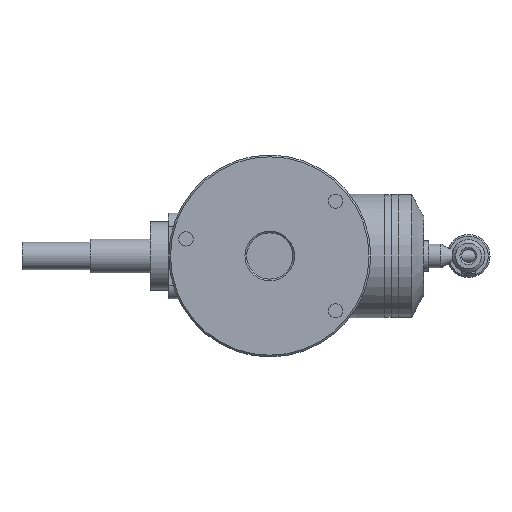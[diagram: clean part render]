
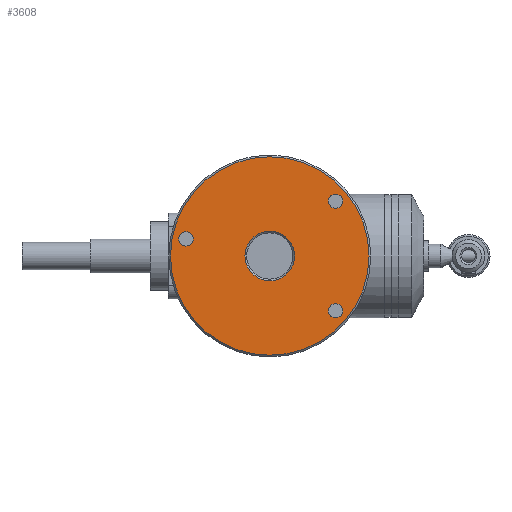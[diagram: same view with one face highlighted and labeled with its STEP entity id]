
A CAD part, front view. The second image highlights one B-rep face of the part: STEP entity #3608.
In plain terms, the highlighted planar face has unit normal (0, -1, 0).
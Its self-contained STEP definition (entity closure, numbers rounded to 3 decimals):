
#81=FACE_BOUND('',#1033,.T.);
#82=FACE_BOUND('',#1034,.T.);
#83=FACE_BOUND('',#1035,.T.);
#84=FACE_BOUND('',#1036,.T.);
#804=FACE_OUTER_BOUND('',#1032,.T.);
#1032=EDGE_LOOP('',(#2348));
#1033=EDGE_LOOP('',(#2349));
#1034=EDGE_LOOP('',(#2350));
#1035=EDGE_LOOP('',(#2351));
#1036=EDGE_LOOP('',(#2352));
#1269=CIRCLE('',#3836,2.1);
#1271=CIRCLE('',#3840,2.1);
#1273=CIRCLE('',#3844,2.1);
#1285=CIRCLE('',#3872,7.25);
#1288=CIRCLE('',#3876,29.);
#1430=VERTEX_POINT('',#5308);
#1432=VERTEX_POINT('',#5315);
#1434=VERTEX_POINT('',#5322);
#1468=VERTEX_POINT('',#5551);
#1471=VERTEX_POINT('',#5559);
#1757=EDGE_CURVE('',#1430,#1430,#1269,.T.);
#1760=EDGE_CURVE('',#1432,#1432,#1271,.T.);
#1763=EDGE_CURVE('',#1434,#1434,#1273,.T.);
#1809=EDGE_CURVE('',#1468,#1468,#1285,.T.);
#1813=EDGE_CURVE('',#1471,#1471,#1288,.T.);
#2348=ORIENTED_EDGE('',*,*,#1813,.F.);
#2349=ORIENTED_EDGE('',*,*,#1757,.T.);
#2350=ORIENTED_EDGE('',*,*,#1760,.T.);
#2351=ORIENTED_EDGE('',*,*,#1763,.T.);
#2352=ORIENTED_EDGE('',*,*,#1809,.F.);
#3269=PLANE('',#3875);
#3608=ADVANCED_FACE('',(#804,#81,#82,#83,#84),#3269,.T.);
#3836=AXIS2_PLACEMENT_3D('',#5309,#4233,#4234);
#3840=AXIS2_PLACEMENT_3D('',#5316,#4242,#4243);
#3844=AXIS2_PLACEMENT_3D('',#5323,#4251,#4252);
#3872=AXIS2_PLACEMENT_3D('',#5552,#4336,#4337);
#3875=AXIS2_PLACEMENT_3D('',#5558,#4343,#4344);
#3876=AXIS2_PLACEMENT_3D('',#5560,#4345,#4346);
#4233=DIRECTION('center_axis',(0.,1.,0.));
#4234=DIRECTION('ref_axis',(1.,0.,0.));
#4242=DIRECTION('center_axis',(0.,1.,0.));
#4243=DIRECTION('ref_axis',(1.,0.,0.));
#4251=DIRECTION('center_axis',(0.,1.,0.));
#4252=DIRECTION('ref_axis',(1.,0.,0.));
#4336=DIRECTION('center_axis',(0.,-1.,0.));
#4337=DIRECTION('ref_axis',(-1.,0.,0.));
#4343=DIRECTION('center_axis',(0.,-1.,0.));
#4344=DIRECTION('ref_axis',(0.,0.,-1.));
#4345=DIRECTION('center_axis',(0.,1.,0.));
#4346=DIRECTION('ref_axis',(-1.,0.,0.));
#5308=CARTESIAN_POINT('',(17.109,0.,-16.));
#5309=CARTESIAN_POINT('Origin',(19.209,0.,-16.));
#5315=CARTESIAN_POINT('',(-26.595,0.,5.));
#5316=CARTESIAN_POINT('Origin',(-24.495,0.,5.));
#5322=CARTESIAN_POINT('',(17.109,0.,16.));
#5323=CARTESIAN_POINT('Origin',(19.209,0.,16.));
#5551=CARTESIAN_POINT('',(7.25,0.,0.));
#5552=CARTESIAN_POINT('Origin',(0.,0.,0.));
#5558=CARTESIAN_POINT('Origin',(0.,0.,0.));
#5559=CARTESIAN_POINT('',(29.,0.,0.));
#5560=CARTESIAN_POINT('Origin',(0.,0.,0.));
